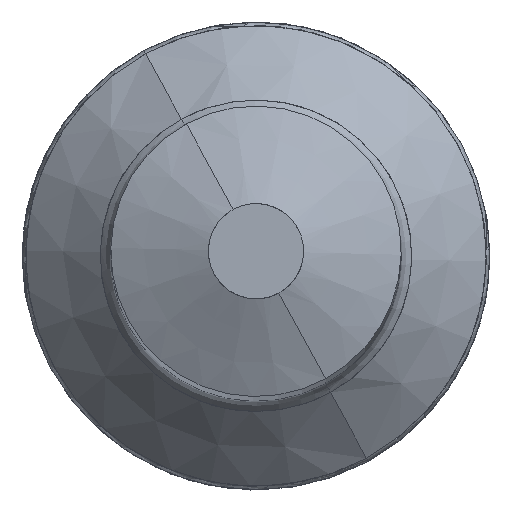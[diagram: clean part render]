
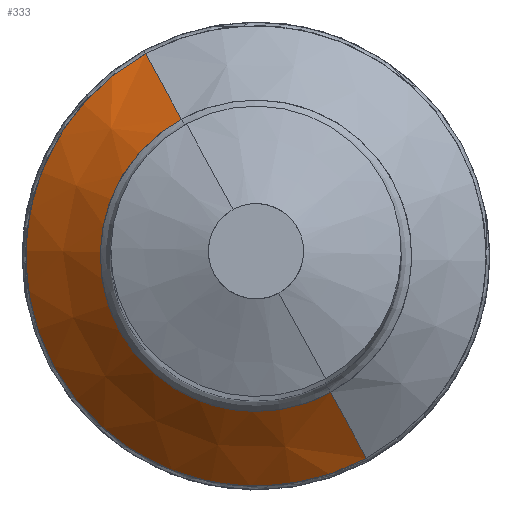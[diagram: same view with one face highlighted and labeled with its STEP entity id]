
A CAD part, top view. The second image highlights one B-rep face of the part: STEP entity #333.
In plain terms, the highlighted conical face has half-angle 45 degrees and reference radius 0 mm.
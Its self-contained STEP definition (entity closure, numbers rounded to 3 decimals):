
#333=ADVANCED_FACE('',(#377),#353,.F.);
#353=CONICAL_SURFACE('',#1028,0.,45.);
#377=FACE_OUTER_BOUND('',#407,.T.);
#407=EDGE_LOOP('',(#566,#567,#568,#569));
#460=B_SPLINE_CURVE_WITH_KNOTS('',3,(#1582,#1583,#1584,#1585),
 .UNSPECIFIED.,.F.,.F.,(4,4),(0.,1.),.UNSPECIFIED.);
#461=B_SPLINE_CURVE_WITH_KNOTS('',3,(#1589,#1590,#1591,#1592),
 .UNSPECIFIED.,.F.,.F.,(4,4),(0.,1.),.UNSPECIFIED.);
#566=ORIENTED_EDGE('',*,*,#814,.T.);
#567=ORIENTED_EDGE('',*,*,#815,.T.);
#568=ORIENTED_EDGE('',*,*,#816,.T.);
#569=ORIENTED_EDGE('',*,*,#817,.T.);
#690=VERTEX_POINT('',#1580);
#691=VERTEX_POINT('',#1581);
#692=VERTEX_POINT('',#1586);
#693=VERTEX_POINT('',#1588);
#814=EDGE_CURVE('',#690,#691,#888,.T.);
#815=EDGE_CURVE('',#691,#692,#460,.T.);
#816=EDGE_CURVE('',#692,#693,#889,.T.);
#817=EDGE_CURVE('',#693,#690,#461,.T.);
#888=CIRCLE('',#1026,12.979);
#889=CIRCLE('',#1027,19.207);
#1026=AXIS2_PLACEMENT_3D('',#1579,#1161,#1162);
#1027=AXIS2_PLACEMENT_3D('',#1587,#1163,#1164);
#1028=AXIS2_PLACEMENT_3D('',#1593,#1165,#1166);
#1161=DIRECTION('',(0.,0.,1.));
#1162=DIRECTION('',(-1.,0.,0.));
#1163=DIRECTION('',(0.,0.,-1.));
#1164=DIRECTION('',(-1.,0.,0.));
#1165=DIRECTION('',(0.,0.,-1.));
#1166=DIRECTION('',(-1.,0.,0.));
#1579=CARTESIAN_POINT('',(0.,0.,11.521));
#1580=CARTESIAN_POINT('',(-6.222,11.39,11.521));
#1581=CARTESIAN_POINT('',(6.222,-11.39,11.521));
#1582=CARTESIAN_POINT('',(6.222,-11.39,11.521));
#1583=CARTESIAN_POINT('',(7.218,-13.212,9.445));
#1584=CARTESIAN_POINT('',(8.213,-15.034,7.369));
#1585=CARTESIAN_POINT('',(9.208,-16.856,5.293));
#1586=CARTESIAN_POINT('',(9.208,-16.856,5.293));
#1587=CARTESIAN_POINT('',(0.,0.,5.293));
#1588=CARTESIAN_POINT('',(-9.208,16.856,5.293));
#1589=CARTESIAN_POINT('',(-9.208,16.856,5.293));
#1590=CARTESIAN_POINT('',(-8.213,15.034,7.369));
#1591=CARTESIAN_POINT('',(-7.218,13.212,9.445));
#1592=CARTESIAN_POINT('',(-6.222,11.39,11.521));
#1593=CARTESIAN_POINT('',(0.,0.,24.5));
